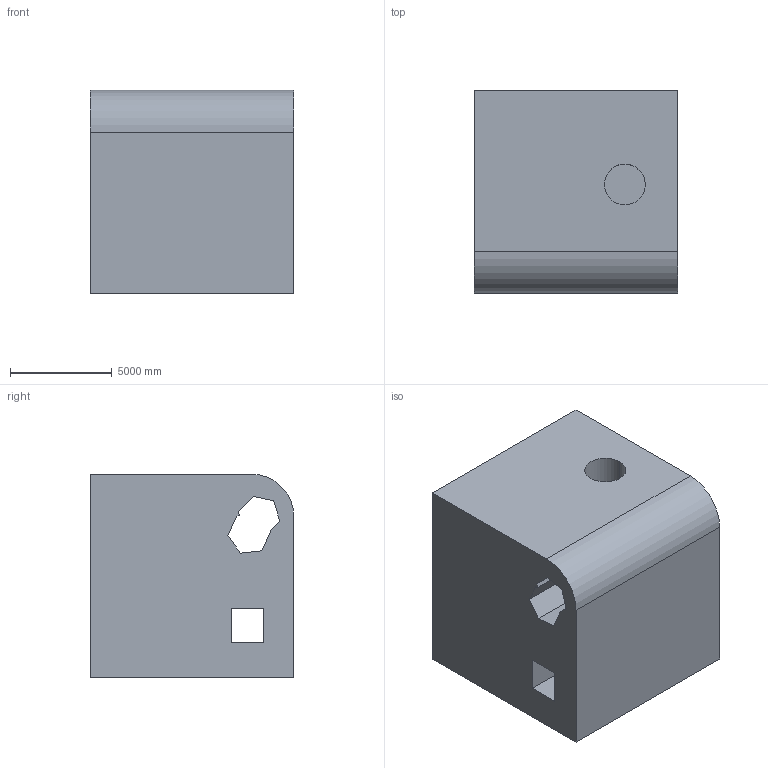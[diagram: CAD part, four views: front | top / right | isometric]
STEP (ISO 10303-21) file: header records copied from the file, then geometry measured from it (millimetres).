
FILE_DESCRIPTION (( 'STEP AP203' ), '1' );
FILE_NAME ('1751.STEP', '2022-08-19T12:23:31', ( 'user' ), ( '' ), 'SwSTEP 2.0', 'SolidWorks 2021', '' );
FILE_SCHEMA (( 'CONFIG_CONTROL_DESIGN' ));
Length unit declared in the file: centimetre
Products named in the file (1): 1751
Bounding box: 10000 x 10000 x 10000 mm (x, y, z)
Volume: 879545942167.5 mm3; surface area: 775996137.1 mm2
Topology: 1 solids, 1 shells, 39 faces, 109 edges, 72 vertices
Faces by surface type: plane 36, cylinder 3
Entity records: 1318 total; most frequent: CARTESIAN_POINT 221, ORIENTED_EDGE 218, DIRECTION 195, EDGE_CURVE 109, LINE 103, VECTOR 103, VERTEX_POINT 72, AXIS2_PLACEMENT_3D 46
